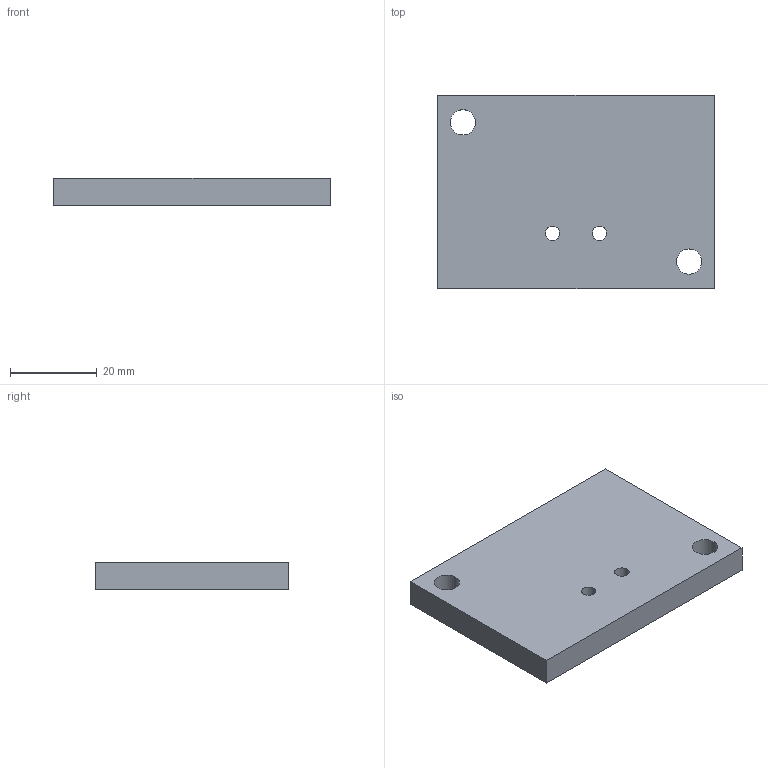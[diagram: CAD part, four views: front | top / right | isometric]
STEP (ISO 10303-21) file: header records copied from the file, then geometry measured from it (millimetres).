
FILE_DESCRIPTION (( 'STEP AP214' ), '1' );
FILE_NAME ('RTI-GMP-80.STEP', '2013-10-22T14:18:12', ( 'user' ), ( '' ), 'SwSTEP 2.0', 'SolidWorks 2009', '' );
FILE_SCHEMA (( 'AUTOMOTIVE_DESIGN' ));
Length unit declared in the file: inch
Products named in the file (1): RTI-GMP-80
Bounding box: 63.5 x 44.45 x 6.35 mm (x, y, z)
Volume: 17474 mm3; surface area: 7275.6 mm2
Topology: 1 solids, 1 shells, 313 faces, 813 edges, 542 vertices
Faces by surface type: plane 203, bspline 102, cylinder 8
Entity records: 19384 total; most frequent: CARTESIAN_POINT 8571, ORIENTED_EDGE 1626, DIRECTION 1049, EDGE_CURVE 813, VECTOR 593, LINE 593, VERTEX_POINT 542, EDGE_LOOP 361
